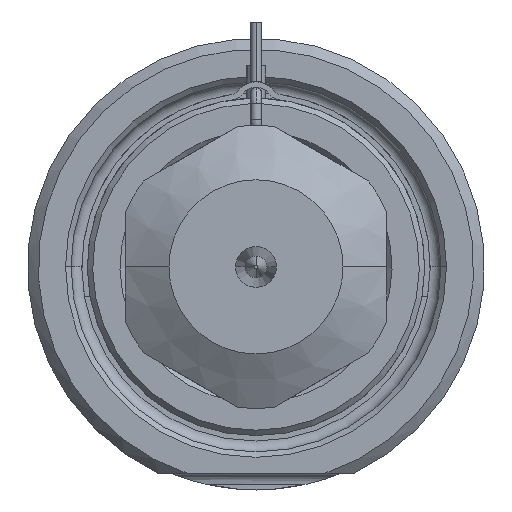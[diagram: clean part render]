
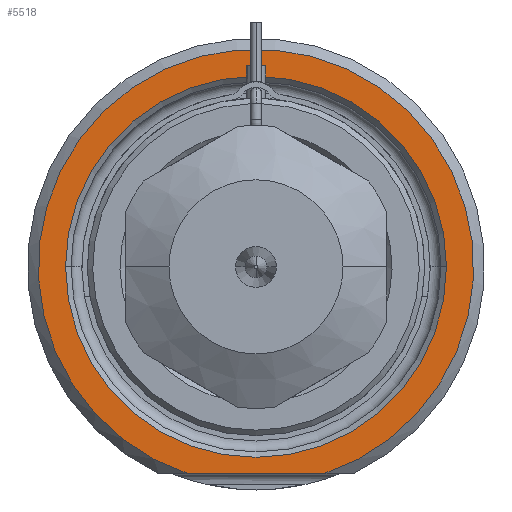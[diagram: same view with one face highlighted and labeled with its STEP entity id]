
A CAD part, front view. The second image highlights one B-rep face of the part: STEP entity #5518.
In plain terms, the highlighted planar face has unit normal (0, -1, 0).
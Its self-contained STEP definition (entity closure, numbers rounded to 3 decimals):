
#1358=DIRECTION('',(1.,0.,0.));
#1359=VECTOR('',#1358,12.49);
#1360=CARTESIAN_POINT('',(-6.245,0.,-19.));
#1361=LINE('',#1360,#1359);
#1362=CARTESIAN_POINT('',(0.,0.,0.));
#1363=DIRECTION('',(0.,1.,0.));
#1364=DIRECTION('',(-1.,0.,0.));
#1365=AXIS2_PLACEMENT_3D('',#1362,#1363,#1364);
#1367=CARTESIAN_POINT('',(0.,0.,0.));
#1368=DIRECTION('',(0.,1.,0.));
#1369=DIRECTION('',(1.,0.,0.));
#1370=AXIS2_PLACEMENT_3D('',#1367,#1368,#1369);
#1476=CARTESIAN_POINT('',(0.,0.,0.));
#1477=DIRECTION('',(0.,-1.,0.));
#1478=DIRECTION('',(0.312,0.,-0.95));
#1479=AXIS2_PLACEMENT_3D('',#1476,#1477,#1478);
#3422=CARTESIAN_POINT('',(-17.5,0.,0.));
#3423=CARTESIAN_POINT('',(17.5,0.,0.));
#3424=VERTEX_POINT('',#3422);
#3425=VERTEX_POINT('',#3423);
#3466=CARTESIAN_POINT('',(-6.245,0.,-19.));
#3467=CARTESIAN_POINT('',(6.245,0.,-19.));
#3468=VERTEX_POINT('',#3466);
#3469=VERTEX_POINT('',#3467);
#5502=CARTESIAN_POINT('',(0.,0.,0.));
#5503=DIRECTION('',(0.,-1.,0.));
#5504=DIRECTION('',(1.,0.,0.));
#5505=AXIS2_PLACEMENT_3D('',#5502,#5503,#5504);
#5506=PLANE('',#5505);
#5508=ORIENTED_EDGE('',*,*,#5507,.F.);
#5510=ORIENTED_EDGE('',*,*,#5509,.F.);
#5511=EDGE_LOOP('',(#5508,#5510));
#5512=FACE_OUTER_BOUND('',#5511,.F.);
#5513=ORIENTED_EDGE('',*,*,#5492,.F.);
#5515=ORIENTED_EDGE('',*,*,#5514,.F.);
#5516=EDGE_LOOP('',(#5513,#5515));
#5517=FACE_BOUND('',#5516,.F.);
#5518=ADVANCED_FACE('',(#5512,#5517),#5506,.T.);
#1366=CIRCLE('',#1365,17.5);
#1371=CIRCLE('',#1370,17.5);
#1480=CIRCLE('',#1479,20.);
#5492=EDGE_CURVE('',#3424,#3425,#1366,.T.);
#5507=EDGE_CURVE('',#3468,#3469,#1361,.T.);
#5509=EDGE_CURVE('',#3469,#3468,#1480,.T.);
#5514=EDGE_CURVE('',#3425,#3424,#1371,.T.);
